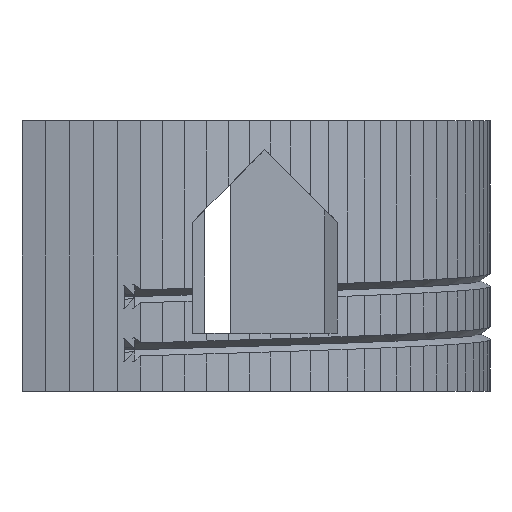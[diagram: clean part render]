
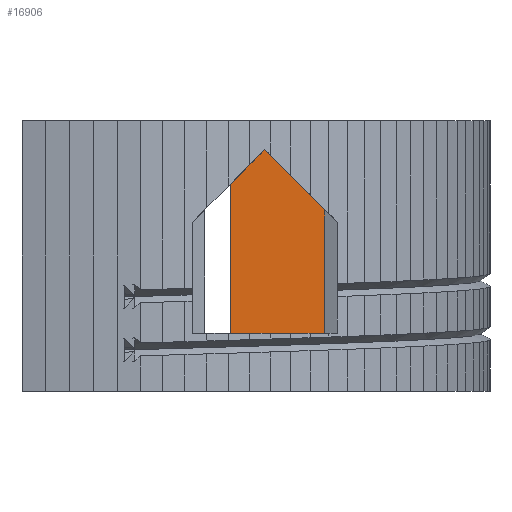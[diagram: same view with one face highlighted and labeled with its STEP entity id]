
A CAD part, left-side view. The second image highlights one B-rep face of the part: STEP entity #16906.
In plain terms, the highlighted planar face has unit normal (-1, 0, 0).
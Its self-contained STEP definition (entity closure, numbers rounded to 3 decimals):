
#277 = PLANE('',#278);
#278 = AXIS2_PLACEMENT_3D('',#279,#280,#281);
#279 = CARTESIAN_POINT('',(0.,9.,4.));
#280 = DIRECTION('',(0.,0.,1.));
#281 = DIRECTION('',(1.,0.,-0.));
#5671 = PLANE('',#5672);
#5672 = AXIS2_PLACEMENT_3D('',#5673,#5674,#5675);
#5673 = CARTESIAN_POINT('',(-24.25,-8.3,3.5));
#5674 = DIRECTION('',(0.,1.,0.));
#5675 = DIRECTION('',(1.,0.,0.));
#5737 = VERTEX_POINT('',#5738);
#5738 = CARTESIAN_POINT('',(-0.75,-8.3,4.));
#5759 = EDGE_CURVE('',#5737,#5760,#5762,.T.);
#5760 = VERTEX_POINT('',#5761);
#5761 = CARTESIAN_POINT('',(-0.75,-11.,4.));
#5762 = SURFACE_CURVE('',#5763,(#5767,#5774),.PCURVE_S1.);
#5763 = LINE('',#5764,#5765);
#5764 = CARTESIAN_POINT('',(-0.75,-5.85,4.));
#5765 = VECTOR('',#5766,1.);
#5766 = DIRECTION('',(0.,-1.,0.));
#5767 = PCURVE('',#277,#5768);
#5768 = DEFINITIONAL_REPRESENTATION('',(#5769),#5773);
#5769 = LINE('',#5770,#5771);
#5770 = CARTESIAN_POINT('',(-0.75,-14.85));
#5771 = VECTOR('',#5772,1.);
#5772 = DIRECTION('',(0.,-1.));
#5773 = ( GEOMETRIC_REPRESENTATION_CONTEXT(2) 
PARAMETRIC_REPRESENTATION_CONTEXT() REPRESENTATION_CONTEXT('2D SPACE',''
  ) );
#5774 = PCURVE('',#5775,#5780);
#5775 = PLANE('',#5776);
#5776 = AXIS2_PLACEMENT_3D('',#5777,#5778,#5779);
#5777 = CARTESIAN_POINT('',(-0.75,-20.7,3.5));
#5778 = DIRECTION('',(-1.,0.,0.));
#5779 = DIRECTION('',(0.,1.,0.));
#5780 = DEFINITIONAL_REPRESENTATION('',(#5781),#5785);
#5781 = LINE('',#5782,#5783);
#5782 = CARTESIAN_POINT('',(14.85,-0.5));
#5783 = VECTOR('',#5784,1.);
#5784 = DIRECTION('',(-1.,0.));
#5785 = ( GEOMETRIC_REPRESENTATION_CONTEXT(2) 
PARAMETRIC_REPRESENTATION_CONTEXT() REPRESENTATION_CONTEXT('2D SPACE',''
  ) );
#5803 = PLANE('',#5804);
#5804 = AXIS2_PLACEMENT_3D('',#5805,#5806,#5807);
#5805 = CARTESIAN_POINT('',(-14.,-11.,4.));
#5806 = DIRECTION('',(0.,1.,0.));
#5807 = DIRECTION('',(1.,0.,0.));
#11650 = PLANE('',#11651);
#11651 = AXIS2_PLACEMENT_3D('',#11652,#11653,#11654);
#11652 = CARTESIAN_POINT('',(0.,-8.545,28.));
#11653 = DIRECTION('',(0.,0.,1.));
#11654 = DIRECTION('',(1.,0.,-0.));
#11833 = PLANE('',#11834);
#11834 = AXIS2_PLACEMENT_3D('',#11835,#11836,#11837);
#11835 = CARTESIAN_POINT('',(-24.25,-20.7,3.5));
#11836 = DIRECTION('',(0.,1.,0.));
#11837 = DIRECTION('',(1.,0.,0.));
#11861 = PLANE('',#11862);
#11862 = AXIS2_PLACEMENT_3D('',#11863,#11864,#11865);
#11863 = CARTESIAN_POINT('',(-12.5,-14.5,3.5));
#11864 = DIRECTION('',(0.,0.,1.));
#11865 = DIRECTION('',(1.,0.,-0.));
#13388 = VERTEX_POINT('',#13389);
#13389 = CARTESIAN_POINT('',(-0.75,-8.3,3.5));
#13487 = EDGE_CURVE('',#13388,#5737,#13488,.T.);
#13488 = SURFACE_CURVE('',#13489,(#13493,#13500),.PCURVE_S1.);
#13489 = LINE('',#13490,#13491);
#13490 = CARTESIAN_POINT('',(-0.75,-8.3,3.5));
#13491 = VECTOR('',#13492,1.);
#13492 = DIRECTION('',(0.,0.,1.));
#13493 = PCURVE('',#5671,#13494);
#13494 = DEFINITIONAL_REPRESENTATION('',(#13495),#13499);
#13495 = LINE('',#13496,#13497);
#13496 = CARTESIAN_POINT('',(23.5,0.));
#13497 = VECTOR('',#13498,1.);
#13498 = DIRECTION('',(0.,-1.));
#13499 = ( GEOMETRIC_REPRESENTATION_CONTEXT(2) 
PARAMETRIC_REPRESENTATION_CONTEXT() REPRESENTATION_CONTEXT('2D SPACE',''
  ) );
#13500 = PCURVE('',#5775,#13501);
#13501 = DEFINITIONAL_REPRESENTATION('',(#13502),#13506);
#13502 = LINE('',#13503,#13504);
#13503 = CARTESIAN_POINT('',(12.4,0.));
#13504 = VECTOR('',#13505,1.);
#13505 = DIRECTION('',(0.,-1.));
#13506 = ( GEOMETRIC_REPRESENTATION_CONTEXT(2) 
PARAMETRIC_REPRESENTATION_CONTEXT() REPRESENTATION_CONTEXT('2D SPACE',''
  ) );
#16862 = EDGE_CURVE('',#5760,#16863,#16865,.T.);
#16863 = VERTEX_POINT('',#16864);
#16864 = CARTESIAN_POINT('',(-0.75,-11.,28.));
#16865 = SURFACE_CURVE('',#16866,(#16870,#16877),.PCURVE_S1.);
#16866 = LINE('',#16867,#16868);
#16867 = CARTESIAN_POINT('',(-0.75,-11.,3.75));
#16868 = VECTOR('',#16869,1.);
#16869 = DIRECTION('',(0.,-0.,1.));
#16870 = PCURVE('',#5803,#16871);
#16871 = DEFINITIONAL_REPRESENTATION('',(#16872),#16876);
#16872 = LINE('',#16873,#16874);
#16873 = CARTESIAN_POINT('',(13.25,0.25));
#16874 = VECTOR('',#16875,1.);
#16875 = DIRECTION('',(0.,-1.));
#16876 = ( GEOMETRIC_REPRESENTATION_CONTEXT(2) 
PARAMETRIC_REPRESENTATION_CONTEXT() REPRESENTATION_CONTEXT('2D SPACE',''
  ) );
#16877 = PCURVE('',#5775,#16878);
#16878 = DEFINITIONAL_REPRESENTATION('',(#16879),#16883);
#16879 = LINE('',#16880,#16881);
#16880 = CARTESIAN_POINT('',(9.7,-0.25));
#16881 = VECTOR('',#16882,1.);
#16882 = DIRECTION('',(0.,-1.));
#16883 = ( GEOMETRIC_REPRESENTATION_CONTEXT(2) 
PARAMETRIC_REPRESENTATION_CONTEXT() REPRESENTATION_CONTEXT('2D SPACE',''
  ) );
#16906 = ADVANCED_FACE('',(#16907),#5775,.T.);
#16907 = FACE_BOUND('',#16908,.T.);
#16908 = EDGE_LOOP('',(#16909,#16932,#16955,#16976,#16977,#16978));
#16909 = ORIENTED_EDGE('',*,*,#16910,.F.);
#16910 = EDGE_CURVE('',#16911,#13388,#16913,.T.);
#16911 = VERTEX_POINT('',#16912);
#16912 = CARTESIAN_POINT('',(-0.75,-20.7,3.5));
#16913 = SURFACE_CURVE('',#16914,(#16918,#16925),.PCURVE_S1.);
#16914 = LINE('',#16915,#16916);
#16915 = CARTESIAN_POINT('',(-0.75,-14.5,3.5));
#16916 = VECTOR('',#16917,1.);
#16917 = DIRECTION('',(0.,1.,0.));
#16918 = PCURVE('',#5775,#16919);
#16919 = DEFINITIONAL_REPRESENTATION('',(#16920),#16924);
#16920 = LINE('',#16921,#16922);
#16921 = CARTESIAN_POINT('',(6.2,0.));
#16922 = VECTOR('',#16923,1.);
#16923 = DIRECTION('',(1.,0.));
#16924 = ( GEOMETRIC_REPRESENTATION_CONTEXT(2) 
PARAMETRIC_REPRESENTATION_CONTEXT() REPRESENTATION_CONTEXT('2D SPACE',''
  ) );
#16925 = PCURVE('',#11861,#16926);
#16926 = DEFINITIONAL_REPRESENTATION('',(#16927),#16931);
#16927 = LINE('',#16928,#16929);
#16928 = CARTESIAN_POINT('',(11.75,0.));
#16929 = VECTOR('',#16930,1.);
#16930 = DIRECTION('',(0.,1.));
#16931 = ( GEOMETRIC_REPRESENTATION_CONTEXT(2) 
PARAMETRIC_REPRESENTATION_CONTEXT() REPRESENTATION_CONTEXT('2D SPACE',''
  ) );
#16932 = ORIENTED_EDGE('',*,*,#16933,.T.);
#16933 = EDGE_CURVE('',#16911,#16934,#16936,.T.);
#16934 = VERTEX_POINT('',#16935);
#16935 = CARTESIAN_POINT('',(-0.75,-20.7,28.));
#16936 = SURFACE_CURVE('',#16937,(#16941,#16948),.PCURVE_S1.);
#16937 = LINE('',#16938,#16939);
#16938 = CARTESIAN_POINT('',(-0.75,-20.7,3.5));
#16939 = VECTOR('',#16940,1.);
#16940 = DIRECTION('',(0.,0.,1.));
#16941 = PCURVE('',#5775,#16942);
#16942 = DEFINITIONAL_REPRESENTATION('',(#16943),#16947);
#16943 = LINE('',#16944,#16945);
#16944 = CARTESIAN_POINT('',(0.,0.));
#16945 = VECTOR('',#16946,1.);
#16946 = DIRECTION('',(0.,-1.));
#16947 = ( GEOMETRIC_REPRESENTATION_CONTEXT(2) 
PARAMETRIC_REPRESENTATION_CONTEXT() REPRESENTATION_CONTEXT('2D SPACE',''
  ) );
#16948 = PCURVE('',#11833,#16949);
#16949 = DEFINITIONAL_REPRESENTATION('',(#16950),#16954);
#16950 = LINE('',#16951,#16952);
#16951 = CARTESIAN_POINT('',(23.5,0.));
#16952 = VECTOR('',#16953,1.);
#16953 = DIRECTION('',(0.,-1.));
#16954 = ( GEOMETRIC_REPRESENTATION_CONTEXT(2) 
PARAMETRIC_REPRESENTATION_CONTEXT() REPRESENTATION_CONTEXT('2D SPACE',''
  ) );
#16955 = ORIENTED_EDGE('',*,*,#16956,.F.);
#16956 = EDGE_CURVE('',#16863,#16934,#16957,.T.);
#16957 = SURFACE_CURVE('',#16958,(#16962,#16969),.PCURVE_S1.);
#16958 = LINE('',#16959,#16960);
#16959 = CARTESIAN_POINT('',(-0.75,-14.623,28.));
#16960 = VECTOR('',#16961,1.);
#16961 = DIRECTION('',(0.,-1.,0.));
#16962 = PCURVE('',#5775,#16963);
#16963 = DEFINITIONAL_REPRESENTATION('',(#16964),#16968);
#16964 = LINE('',#16965,#16966);
#16965 = CARTESIAN_POINT('',(6.077,-24.5));
#16966 = VECTOR('',#16967,1.);
#16967 = DIRECTION('',(-1.,0.));
#16968 = ( GEOMETRIC_REPRESENTATION_CONTEXT(2) 
PARAMETRIC_REPRESENTATION_CONTEXT() REPRESENTATION_CONTEXT('2D SPACE',''
  ) );
#16969 = PCURVE('',#11650,#16970);
#16970 = DEFINITIONAL_REPRESENTATION('',(#16971),#16975);
#16971 = LINE('',#16972,#16973);
#16972 = CARTESIAN_POINT('',(-0.75,-6.077));
#16973 = VECTOR('',#16974,1.);
#16974 = DIRECTION('',(0.,-1.));
#16975 = ( GEOMETRIC_REPRESENTATION_CONTEXT(2) 
PARAMETRIC_REPRESENTATION_CONTEXT() REPRESENTATION_CONTEXT('2D SPACE',''
  ) );
#16976 = ORIENTED_EDGE('',*,*,#16862,.F.);
#16977 = ORIENTED_EDGE('',*,*,#5759,.F.);
#16978 = ORIENTED_EDGE('',*,*,#13487,.F.);
